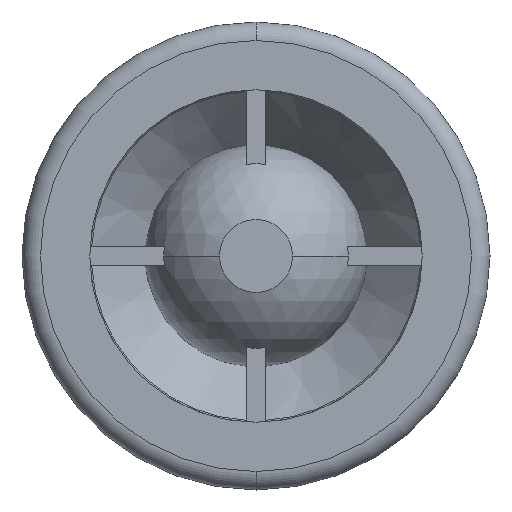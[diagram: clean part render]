
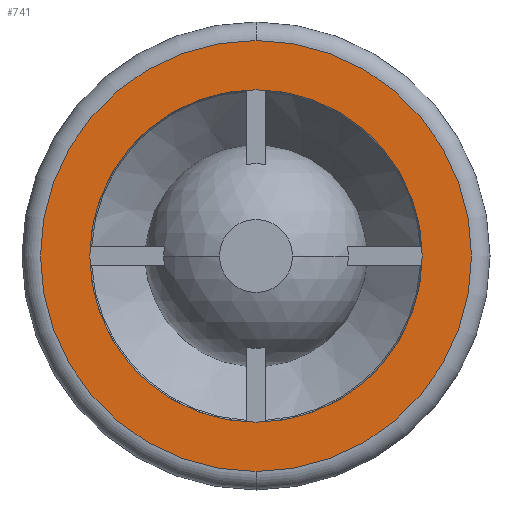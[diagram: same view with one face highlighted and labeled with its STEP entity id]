
A CAD part, front view. The second image highlights one B-rep face of the part: STEP entity #741.
In plain terms, the highlighted planar face has unit normal (0, -1, 0).
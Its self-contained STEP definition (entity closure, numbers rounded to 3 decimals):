
#230 = VERTEX_POINT ( 'NONE', #1320 ) ;
#289 = EDGE_CURVE ( 'NONE', #420, #230, #1402, .T. ) ;
#420 = VERTEX_POINT ( 'NONE', #1608 ) ;
#425 = EDGE_CURVE ( 'NONE', #230, #420, #1654, .T. ) ;
#692 = VERTEX_POINT ( 'NONE', #2131 ) ;
#693 = EDGE_CURVE ( 'NONE', #692, #694, #2130, .T. ) ;
#694 = VERTEX_POINT ( 'NONE', #2125 ) ;
#711 = ORIENTED_EDGE ( 'NONE', *, *, #289, .F. ) ;
#741 = ADVANCED_FACE ( 'NONE', ( #2182, #2242 ), #2241, .F. ) ;
#764 = ORIENTED_EDGE ( 'NONE', *, *, #425, .F. ) ;
#1320 = CARTESIAN_POINT ( 'NONE',  ( 0., 0., 13.5 ) ) ;
#1398 = DIRECTION ( 'NONE',  ( 0., 0., -1. ) ) ;
#1399 = DIRECTION ( 'NONE',  ( 0., -1., 0. ) ) ;
#1400 = CARTESIAN_POINT ( 'NONE',  ( 0., 0., 0. ) ) ;
#1401 = AXIS2_PLACEMENT_3D ( 'NONE', #1400, #1399, #1398 ) ;
#1402 = CIRCLE ( 'NONE', #1401, 13.5 ) ;
#1608 = CARTESIAN_POINT ( 'NONE',  ( 0., 0., -13.5 ) ) ;
#1650 = DIRECTION ( 'NONE',  ( 0., 0., -1. ) ) ;
#1651 = DIRECTION ( 'NONE',  ( 0., -1., 0. ) ) ;
#1652 = CARTESIAN_POINT ( 'NONE',  ( 0., 0., 0. ) ) ;
#1653 = AXIS2_PLACEMENT_3D ( 'NONE', #1652, #1651, #1650 ) ;
#1654 = CIRCLE ( 'NONE', #1653, 13.5 ) ;
#2125 = CARTESIAN_POINT ( 'NONE',  ( 0., 0., 17.5 ) ) ;
#2126 = DIRECTION ( 'NONE',  ( 0., 0., 1. ) ) ;
#2127 = DIRECTION ( 'NONE',  ( 0., -1., 0. ) ) ;
#2128 = CARTESIAN_POINT ( 'NONE',  ( 0., 0., 0. ) ) ;
#2129 = AXIS2_PLACEMENT_3D ( 'NONE', #2128, #2127, #2126 ) ;
#2130 = CIRCLE ( 'NONE', #2129, 17.5 ) ;
#2131 = CARTESIAN_POINT ( 'NONE',  ( 0., 0., -17.5 ) ) ;
#2182 = FACE_OUTER_BOUND ( 'NONE', #2800, .T. ) ;
#2236 = DIRECTION ( 'NONE',  ( 0., 0., 1. ) ) ;
#2237 = DIRECTION ( 'NONE',  ( 0., 1., 0. ) ) ;
#2238 = CARTESIAN_POINT ( 'NONE',  ( -13.5, 0., 0. ) ) ;
#2240 = AXIS2_PLACEMENT_3D ( 'NONE', #2238, #2237, #2236 ) ;
#2241 = PLANE ( 'NONE',  #2240 ) ;
#2242 = FACE_BOUND ( 'NONE', #2793, .T. ) ;
#2449 = DIRECTION ( 'NONE',  ( 0., 0., 1. ) ) ;
#2450 = DIRECTION ( 'NONE',  ( 0., -1., 0. ) ) ;
#2451 = CARTESIAN_POINT ( 'NONE',  ( 0., 0., 0. ) ) ;
#2452 = AXIS2_PLACEMENT_3D ( 'NONE', #2451, #2450, #2449 ) ;
#2453 = CIRCLE ( 'NONE', #2452, 17.5 ) ;
#2793 = EDGE_LOOP ( 'NONE', ( #711, #764 ) ) ;
#2794 = ORIENTED_EDGE ( 'NONE', *, *, #693, .T. ) ;
#2799 = ORIENTED_EDGE ( 'NONE', *, *, #2801, .T. ) ;
#2800 = EDGE_LOOP ( 'NONE', ( #2799, #2794 ) ) ;
#2801 = EDGE_CURVE ( 'NONE', #694, #692, #2453, .T. ) ;
